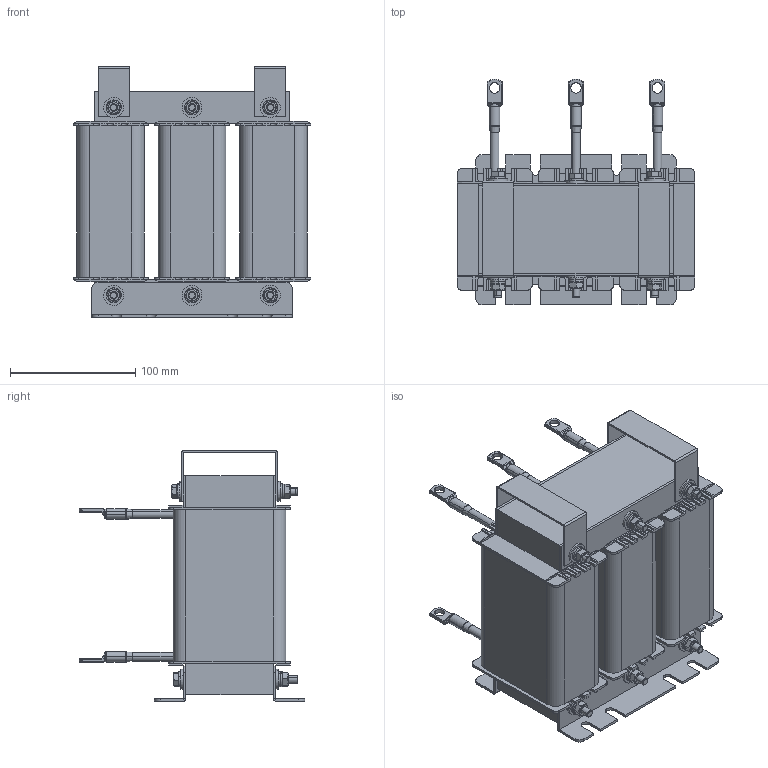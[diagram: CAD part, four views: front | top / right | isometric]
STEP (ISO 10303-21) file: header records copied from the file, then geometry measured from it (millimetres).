
FILE_DESCRIPTION (( 'STEP AP203' ), '1' );
FILE_NAME ('填蝾痦 漯铖皴朦 _ IMF-45_90-4.STEP', '2025-07-11T10:15:04', ( '' ), ( '' ), 'SwSTEP 2.0', 'SolidWorks 2021', '' );
FILE_SCHEMA (( 'CONFIG_CONTROL_DESIGN' ));
Length unit declared in the file: millimetre
Products named in the file (15): Ïëàñòèíà ïðèæèìíàÿ_45; Èçîëÿòîð êàòóøêè_45; Øàéáà ïëîñêàÿ DIN 125 (A)_Œ6; Øàéáà ïðóæèííàÿ DIN 127 (A)_Œ6; Âûâîä êàòóøêè_45; 忺覷齆趌45; 侲膰翴籦鴀_22-45; Øàéáà ïëîñêàÿ DIN 9021_Œ6; Ñêîáà òàêåëàæíàÿ_45; 栫謱毿膻獥45; Êàòóøêà ñ âûâîäàìè_45; 咈櫡_22-45; Ãàéêà DIN 934_Œ6; Áîëò DIN 933_Œ6å95; 填蝾痦 漯铖皴朦 _ IMF-45_90-4
Assembly tree (63 placements, depth 3):
  填蝾痦 漯铖皴朦 _ IMF-45_90-4
    咈櫡_22-45  x2
    Èçîëÿòîð êàòóøêè_45  x6
    Êàòóøêà ñ âûâîäàìè_45  x3
      忺覷齆趌45
      Âûâîä êàòóøêè_45
      侲膰翴籦鴀_22-45
    Ïëàñòèíà ïðèæèìíàÿ_45  x2
    Ñêîáà òàêåëàæíàÿ_45  x2
    栫謱毿膻獥45
    Øàéáà ïëîñêàÿ DIN 9021_Œ6  x12
    Øàéáà ïëîñêàÿ DIN 125 (A)_Œ6  x12
    Øàéáà ïðóæèííàÿ DIN 127 (A)_Œ6  x6
    Ãàéêà DIN 934_Œ6  x6
    Áîëò DIN 933_Œ6å95  x6
Bounding box: 190 x 180 x 200 mm (x, y, z)
Volume: 2430674.1 mm3; surface area: 486054.2 mm2
Topology: 70 solids, 70 shells, 1700 faces, 4098 edges, 2520 vertices
Faces by surface type: plane 872, cylinder 480, cone 198, bspline 84, torus 42, sphere 24
Entity records: 14338 total; most frequent: CARTESIAN_POINT 3039, DIRECTION 1808, ORIENTED_EDGE 1686, EDGE_CURVE 843, AXIS2_PLACEMENT_3D 639, LINE 530, VECTOR 530, VERTEX_POINT 528
